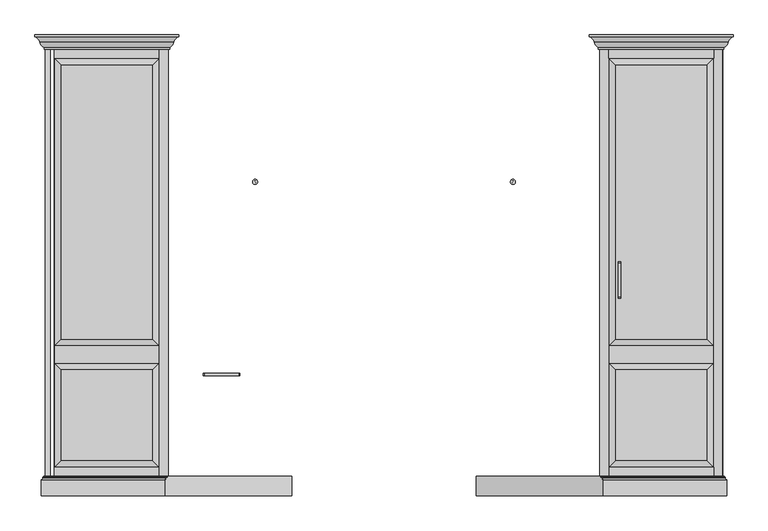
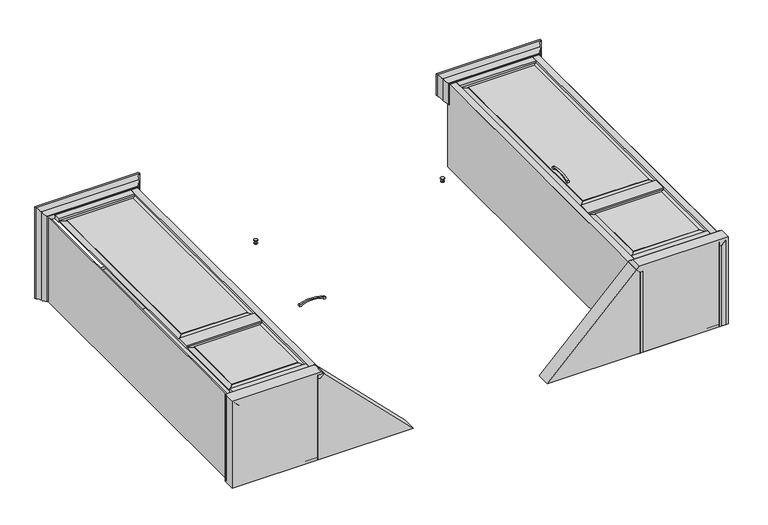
"""IFC4 building model written with IfcOpenShell, lengths in millimetres: proxy geometry, CCN^BRIGHTON_L2-A STRAIGHT WALL-SOLID ASSEMBLY."""

from ifc_helpers import new_model, si_unit, point, frame, frame_2d, origin, place, context, project, spatial, polyline, circle_curve, ellipse_curve, trimmed, segment, composite_curve, outline, extrude, faceted_brep, source, transform, mapped, element, save
from ifc_brep_helpers import plane_surface, cylinder_surface, revolved_surface, advanced_brep


def generic_models_cc090cf4(model_context):
    return source(origin(), model_context, "Body", "SolidModel", [
        advanced_brep(
        [(-2050.8129703, 555.4967341, 450.4803173), (-2001.9034737, 485.6467341, 401.5708208), (-2001.9034737, 485.6467341, -184.4636945), (-2050.8129703, 555.4967341, -184.4636945), (-2031.0315584, 485.6467341, -184.4636945), (-2031.0315584, 492.3867588, -184.4636945), (-2052.1823304, 521.5905487, -184.4636945), (-2076.2689584, 547.5719341, -184.4636945), (-2076.2689584, 555.4967341, -184.4636945), (-1439.4344431, 485.6467341, 249.1708208), (-1410.3063584, 485.6467341, 278.2989055), (-1410.3063584, 485.6467341, 430.6989055), (-2031.0315584, 485.6467341, 430.6989055), (-1439.4344431, 485.6467341, 401.5708208), (-1390.5249466, 555.4967341, 298.0803173), (-1365.0689584, 555.4967341, 323.5363055), (-1365.0689584, 547.5719341, 323.5363055), (-1389.1555865, 521.5905487, 299.4496774), (-1410.3063584, 492.3867588, 278.2989055), (-1390.5249466, 555.4967341, 450.4803173), (-1365.0689584, 547.5719341, 475.9363055), (-1389.1555865, 521.5905487, 451.8496774), (-1365.0689584, 555.4967341, 475.9363055), (-2076.2689584, 555.4967341, 475.9363055), (-1410.3063584, 492.3867588, 430.6989055), (-2076.2689584, 547.5719341, 475.9363055), (-2052.1823304, 521.5905487, 451.8496774), (-2031.0315584, 492.3867588, 430.6989055)],
        [
            (0, 1),
            (1, 2),
            (2, 3),
            (3, 0),
            (2, 4),
            (4, 5),
            (5, 6, circle_curve(frame((-2003.1423584, 534.8465341, -184.4636945), z_axis=(0.0, 0.0, -1.0), x_axis=(-1.0, 0.0, 0.0)), 50.8)),
            (6, 7, circle_curve(frame((-2088.9623093, 511.6485595, -184.4636945), z_axis=(0.0, 0.0, 1.0), x_axis=(-1.0, 0.0, 0.0)), 38.1)),
            (7, 8),
            (8, 3),
            (9, 10),
            (10, 11),
            (11, 12),
            (12, 4),
            (1, 13),
            (13, 9),
            (9, 14),
            (14, 15),
            (15, 16),
            (16, 17, ellipse_curve(frame((-1352.3756075, 511.6485595, 336.2296564), z_axis=(-0.7071067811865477, 0.0, 0.7071067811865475), x_axis=(-0.7071067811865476, 0.0, -0.7071067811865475)), 53.8815367, 38.1)),
            (17, 18, ellipse_curve(frame((-1438.1955584, 534.8465341, 250.4097055), z_axis=(0.7071067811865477, 0.0, -0.7071067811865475), x_axis=(-0.7071067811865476, 0.0, -0.7071067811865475)), 71.842049, 50.8)),
            (18, 10),
            (13, 19),
            (19, 14),
            (16, 20),
            (20, 21, ellipse_curve(frame((-1352.3756075, 511.6485595, 488.6296564), z_axis=(-0.7071067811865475, 0.0, 0.7071067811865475), x_axis=(-0.7071067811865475, 0.0, -0.7071067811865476)), 53.8815367, 38.1)),
            (21, 17),
            (15, 22),
            (22, 20),
            (19, 0),
            (8, 23),
            (23, 22),
            (21, 24, ellipse_curve(frame((-1438.1955584, 534.8465341, 402.8097055), z_axis=(0.7071067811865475, 0.0, -0.7071067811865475), x_axis=(-0.7071067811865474, 0.0, -0.7071067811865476)), 71.842049, 50.8)),
            (24, 18),
            (24, 11),
            (25, 23),
            (7, 25),
            (26, 25, ellipse_curve(frame((-2088.9623093, 511.6485595, 488.6296564), z_axis=(0.7071067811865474, 0.0, 0.7071067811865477), x_axis=(0.7071067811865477, 0.0, -0.7071067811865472)), 53.8815367, 38.1)),
            (6, 26),
            (27, 26, ellipse_curve(frame((-2003.1423584, 534.8465341, 402.8097055), z_axis=(-0.7071067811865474, 0.0, -0.7071067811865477), x_axis=(0.7071067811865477, 0.0, -0.7071067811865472)), 71.842049, 50.8)),
            (5, 27),
            (12, 27),
            (25, 20),
            (26, 21),
            (27, 24),
        ],
        [
            plane_surface(frame((-2050.8129703, 555.4967341, 450.4803173), z_axis=(0.8191520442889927, 0.573576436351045, 0.0), x_axis=(0.4975428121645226, -0.7105647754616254, -0.4975428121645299))),
            plane_surface(frame((-2025.4689584, 511.0467341, -184.4636945), z_axis=(0.0, 0.0, -1.0), x_axis=(-1.0, 0.0, 0.0))),
            plane_surface(frame((-1415.8689584, 485.6467341, 425.1363055), z_axis=(0.0, -1.0, 0.0), x_axis=(0.0, 0.0, 1.0))),
            plane_surface(frame((-1390.4689584, 555.4967341, 298.1363055), z_axis=(0.7071067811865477, 0.0, -0.7071067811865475), x_axis=(-0.7071067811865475, 0.0, -0.7071067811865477))),
            plane_surface(frame((-1415.8689584, 519.3017341, 425.1363055), z_axis=(-0.8191520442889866, 0.5735764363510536, 0.0), x_axis=(0.4975428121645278, 0.7105647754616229, 0.49754281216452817))),
            revolved_surface(polyline([(-1314.2756075, 511.6485595, 298.1296564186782), (-1314.2756075, 511.6485595, 526.7296563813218)]), (-1352.3756075, 511.6485595, 488.6296564), (0.0, 0.0, -1.0)),
            plane_surface(frame((-1365.0689584, 555.4967341, 475.9363055), z_axis=(1.0, 0.0, 0.0), x_axis=(0.0, -1.0, 0.0))),
            plane_surface(frame((-1415.8689584, 555.4967341, 475.9363055), z_axis=(0.0, 1.0, 0.0), x_axis=(0.0, 0.0, -1.0))),
            cylinder_surface(frame((-1438.1955584, 534.8465341, 402.8097055), z_axis=(0.0, 0.0, -1.0), x_axis=(1.0, 0.0, 0.0)), 50.8),
            plane_surface(frame((-1410.3063584, 492.3867588, 430.6989055), z_axis=(1.0, 0.0, 0.0), x_axis=(0.0, -1.0, 0.0))),
            plane_surface(frame((-2076.2689584, 547.5719341, 475.9363055), z_axis=(-1.0, 0.0, 0.0), x_axis=(0.0, 1.0, 0.0))),
            revolved_surface(polyline([(-2127.0623093, 511.6485595, -184.46369450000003), (-2127.0623093, 511.6485595, 526.7296563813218)]), (-2088.9623093, 511.6485595, 488.6296564), (0.0, 0.0, -1.0)),
            cylinder_surface(frame((-2003.1423584, 534.8465341, 402.8097055), z_axis=(0.0, 0.0, -1.0), x_axis=(-1.0, 0.0, 0.0)), 50.8),
            plane_surface(frame((-2031.0315584, 485.6467341, 430.6989055), z_axis=(-1.0, 0.0, 0.0), x_axis=(0.0, 1.0, 0.0))),
            plane_surface(frame((-1415.8689584, 547.5719341, 475.9363055), z_axis=(0.0, 0.0, 1.0), x_axis=(0.0, 1.0, 0.0))),
            revolved_surface(polyline([(-2127.062309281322, 501.7065703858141, 525.4096353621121), (-1314.275607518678, 501.7065703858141, 525.4096353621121)]), (-1415.8689584, 511.6485595, 488.6296564), (-1.0, 0.0, 0.0)),
            cylinder_surface(frame((-1415.8689584, 534.8465341, 402.8097055), z_axis=(-0.9999999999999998, 0.0, 0.0), x_axis=(0.0, -0.2609445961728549, 0.965353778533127)), 50.8),
            plane_surface(frame((-1415.8689584, 485.6467341, 430.6989055), z_axis=(0.0, 0.0, 1.0), x_axis=(0.0, 1.0, 0.0))),
            plane_surface(frame((-1415.8689584, 555.4967341, 450.4803173), z_axis=(0.0, 0.5735764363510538, -0.8191520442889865), x_axis=(0.0, -0.8191520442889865, -0.5735764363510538))),
        ],
        [
            (0, [[1, 2, 3, 4]]),
            (1, [[-3, 5, 6, 7, 8, 9, 10]]),
            (2, [[11, 12, 13, 14, -5, -2, 15, 16]]),
            (3, [[-11, 17, 18, 19, 20, 21, 22]]),
            (4, [[23, 24, -17, -16]]),
            (5, [[-20, 25, 26, 27]]),
            (6, [[-19, 28, 29, -25]]),
            (7, [[-18, -24, 30, -4, -10, 31, 32, -28]]),
            (8, [[-21, -27, 33, 34]]),
            (9, [[-22, -34, 35, -12]]),
            (10, [[36, -31, -9, 37]]),
            (11, [[38, -37, -8, 39]]),
            (12, [[40, -39, -7, 41]]),
            (13, [[42, -41, -6, -14]]),
            (14, [[-32, -36, 43, -29]]),
            (15, [[-43, -38, 44, -26]]),
            (16, [[-44, -40, 45, -33]]),
            (17, [[-45, -42, -13, -35]]),
            (18, [[-1, -30, -23, -15]]),
        ],
    ),
        extrude(outline(polyline([(399.7363055, -1441.2689584), (425.1363055, -1415.8689584), (425.1363055, -1460.3189584), (399.7363055, -1460.3189584), (399.7363055, -1441.2689584)])), frame((0.0, -1724.1532659, 0.0), z_axis=(0.0, 1.0, 0.0), x_axis=(0.0, 0.0, 1.0)), (0.0, 0.0, 1.0), 2235.2),
        faceted_brep([(-1463.4939584, -981.2032659, 413.4539186), (-1977.8439584, -981.2032659, 413.4539186), (-1977.8439584, -981.2032659, 425.1363055), (-1463.4939584, -981.2032659, 425.1363055), (-1977.8439584, -1070.1032659, 425.1363055), (-1463.4939584, -1070.1032659, 425.1363055), (-1977.8439584, -1070.1032659, 413.4539186), (-1463.4939584, -1070.1032659, 413.4539186), (-1495.2439584, -1101.8532659, 425.1363055), (-1495.2439584, -1101.8532659, 421.9613055), (-1946.0939584, -1101.8532659, 421.9613055), (-1946.0939584, -1101.8532659, 425.1363055), (-1946.0939584, -1549.5282659, 425.1363055), (-1495.2439584, -1549.5282659, 425.1363055), (-1946.0939584, -1549.5282659, 421.9613055), (-1977.8439584, -1581.2782659, 413.4539186), (-1495.2439584, -1549.5282659, 421.9613055), (-1463.4939584, -1581.2782659, 413.4539186), (-1977.8439584, -1581.2782659, 406.0863055), (-1463.4939584, -1581.2782659, 406.0863055), (-1946.0939584, -949.4532659, 421.9613055), (-1495.2439584, -949.4532659, 421.9613055), (-1946.0939584, -949.4532659, 425.1363055), (-1495.2439584, -949.4532659, 425.1363055), (-1946.0939584, 406.2717341, 421.9613055), (-1977.8439584, 438.0217341, 413.4539186), (-1946.0939584, 406.2717341, 425.1363055), (-1495.2439584, 406.2717341, 425.1363055), (-1463.4939584, 438.0217341, 413.4539186), (-1463.4939584, 438.0217341, 406.0863055), (-1977.8439584, 438.0217341, 406.0863055), (-1495.2439584, 406.2717341, 421.9613055)], [[[0, 1, 2, 3]], [[3, 2, 4, 5]], [[6, 7, 5, 4]], [[8, 9, 10, 11]], [[9, 7, 6, 10]], [[8, 11, 12, 13]], [[11, 10, 14, 12]], [[10, 6, 15, 14]], [[7, 9, 16, 17]], [[9, 8, 13, 16]], [[12, 14, 16, 13]], [[14, 15, 17, 16]], [[17, 15, 18, 19]], [[20, 1, 0, 21]], [[22, 20, 21, 23]], [[1, 20, 24, 25]], [[20, 22, 26, 24]], [[22, 23, 27, 26]], [[25, 28, 29, 30]], [[27, 31, 24, 26]], [[31, 28, 25, 24]], [[1, 25, 30, 18, 15, 6, 4, 2]], [[23, 21, 31, 27]], [[18, 30, 29, 19]], [[19, 29, 28, 0, 3, 5, 7, 17]], [[21, 0, 28, 31]]]),
        extrude(outline(polyline([(-1981.0189584, 441.1967341), (-1981.0189584, 511.0467341), (-1460.3189584, 511.0467341), (-1460.3189584, 441.1967341), (-1981.0189584, 441.1967341)])), frame((0.0, 0.0, 399.7363055), z_axis=(0.0, 0.0, 1.0), x_axis=(1.0, 0.0, 0.0)), (0.0, 0.0, 1.0), 25.4),
        advanced_brep(
        [(-1422.2189584, -1628.9032659, 431.4863055), (-806.2689584, -1628.9032659, -184.4636945), (-2031.8189584, -1628.9032659, -184.4636945), (-2031.8189584, -1628.9032659, 431.4863055), (-1422.2189584, -1632.0782659, 431.4863055), (-1428.5689584, -1638.4282659, 437.8363055), (-1434.9189584, -1644.7782659, 444.1863055), (-1434.9189584, -1724.1532659, 444.1863055), (-806.2689584, -1724.1532659, -184.4636945), (-2044.5189584, -1724.1532659, 444.1863055), (-2044.5189584, -1724.1532659, -184.4636945), (-2044.5189584, -1644.7782659, 444.1863055), (-2038.1689584, -1638.4282659, 437.8363055), (-2031.8189584, -1632.0782659, 431.4863055), (-2038.1689584, -1638.4282659, -184.4636945), (-2044.5189584, -1644.7782659, -184.4636945), (-2031.8189584, -1632.0782659, -184.4636945)],
        [
            (0, 1),
            (1, 2),
            (2, 3),
            (3, 0),
            (0, 4),
            (4, 5, ellipse_curve(frame((-1422.2189584, -1638.4282659, 431.4863055), z_axis=(0.7071067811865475, 0.0, 0.7071067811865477), x_axis=(-0.7071067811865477, 0.0, 0.7071067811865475)), 8.9802561, 6.35)),
            (5, 6, ellipse_curve(frame((-1434.9189584, -1638.4282659, 444.1863055), z_axis=(-0.7071067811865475, 0.0, -0.7071067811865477), x_axis=(-0.7071067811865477, 0.0, 0.7071067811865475)), 8.9802561, 6.35)),
            (6, 7),
            (7, 8),
            (8, 1),
            (7, 9),
            (9, 10),
            (10, 8),
            (6, 11),
            (11, 9),
            (5, 12),
            (12, 11, ellipse_curve(frame((-2044.5189584, -1638.4282659, 444.1863055), z_axis=(-0.707106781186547, 0.0, -0.7071067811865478), x_axis=(-0.7071067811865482, 0.0, 0.7071067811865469)), 8.9802561, 6.35)),
            (4, 13),
            (13, 12, ellipse_curve(frame((-2031.8189584, -1638.4282659, 431.4863055), z_axis=(0.707106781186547, 0.0, 0.7071067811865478), x_axis=(-0.7071067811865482, 0.0, 0.7071067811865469)), 8.9802561, 6.35)),
            (3, 13),
            (12, 14),
            (14, 15, circle_curve(frame((-2044.5189584, -1638.4282659, -184.4636945), z_axis=(0.0, 0.0, -1.0), x_axis=(-1.0, 0.0, 0.0)), 6.35)),
            (15, 11),
            (13, 16),
            (16, 14, circle_curve(frame((-2031.8189584, -1638.4282659, -184.4636945), z_axis=(0.0, 0.0, 1.0), x_axis=(-1.0, 0.0, 0.0)), 6.35)),
            (2, 16),
            (10, 15),
        ],
        [
            plane_surface(frame((-1730.1939584, -1628.9032659, 129.8613055), z_axis=(0.0, 1.0, 0.0), x_axis=(0.0, 0.0, 1.0))),
            plane_surface(frame((-1425.3939584, -1724.1532659, 434.6613055), z_axis=(0.7071067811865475, 0.0, 0.7071067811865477), x_axis=(0.7071067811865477, 0.0, -0.7071067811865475))),
            plane_surface(frame((-1730.1939584, -1724.1532659, 129.8613055), z_axis=(0.0, -1.0, 0.0), x_axis=(0.0, 0.0, -1.0))),
            plane_surface(frame((-2044.5189584, -1724.1532659, 444.1863055), z_axis=(0.0, 0.0, 1.0), x_axis=(1.0, 0.0, 0.0))),
            revolved_surface(polyline([(-2050.868958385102, -1644.7782659, 444.1863055), (-1428.5689584, -1644.7782659, 444.1863055)]), (-1415.8689584, -1638.4282659, 444.1863055), (-1.0, 0.0, 0.0)),
            cylinder_surface(frame((-1415.8689584, -1638.4282659, 431.4863055), z_axis=(-1.0, 0.0, 0.0), x_axis=(0.0, -1.0, 0.0)), 6.35),
            plane_surface(frame((-1415.8689584, -1628.9032659, 431.4863055), z_axis=(0.0, 0.0, 1.0), x_axis=(0.0, -1.0, 0.0))),
            revolved_surface(polyline([(-2050.8689584, -1638.4282659, -184.46369449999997), (-2050.8689584, -1638.4282659, 450.5363054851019)]), (-2044.5189584, -1638.4282659, 444.1863055), (0.0, 0.0, -1.0)),
            cylinder_surface(frame((-2031.8189584, -1638.4282659, 431.4863055), z_axis=(0.0, 0.0, -1.0), x_axis=(-1.0, 0.0, 0.0)), 6.35),
            plane_surface(frame((-2031.8189584, -1628.9032659, 431.4863055), z_axis=(-1.0, 0.0, 0.0), x_axis=(0.0, -1.0, 0.0))),
            plane_surface(frame((-2025.4689584, -1724.1532659, -184.4636945), z_axis=(0.0, 0.0, -1.0), x_axis=(-1.0, 0.0, 0.0))),
            plane_surface(frame((-2044.5189584, -1724.1532659, -184.4636945), z_axis=(-1.0, 0.0, 0.0), x_axis=(0.0, 0.0, 1.0))),
        ],
        [
            (0, [[1, 2, 3, 4]]),
            (1, [[-1, 5, 6, 7, 8, 9, 10]]),
            (2, [[-9, 11, 12, 13]]),
            (3, [[-8, 14, 15, -11]]),
            (4, [[-7, 16, 17, -14]]),
            (5, [[-6, 18, 19, -16]]),
            (6, [[-5, -4, 20, -18]]),
            (7, [[-17, 21, 22, 23]]),
            (8, [[-19, 24, 25, -21]]),
            (9, [[-20, -3, 26, -24]]),
            (10, [[-22, -25, -26, -2, -10, -13, 27]]),
            (11, [[-23, -27, -12, -15]]),
        ],
    ),
        extrude(outline(polyline([(-1460.3189584, -1724.1532659), (-1460.3189584, 485.6467341), (-1441.2689584, 485.6467341), (-1441.2689584, -1724.1532659), (-1460.3189584, -1724.1532659)])), frame((0.0, 0.0, -184.4636945), z_axis=(0.0, 0.0, 1.0), x_axis=(1.0, 0.0, 0.0)), (0.0, 0.0, 1.0), 584.2),
        extrude(outline(polyline([(-1461.1127084, 117.3467341), (-1980.2252084, 117.3467341), (-1980.2252084, 136.3967341), (-1461.1127084, 136.3967341), (-1461.1127084, 117.3467341)])), frame((0.0, 0.0, -165.4136945), z_axis=(0.0, 0.0, 1.0), x_axis=(1.0, 0.0, 0.0)), (0.0, 0.0, 1.0), 381.0),
        extrude(outline(polyline([(-1460.3189584, -1724.1532659), (-1981.0189584, -1724.1532659), (-1981.0189584, -1584.4532659), (-1460.3189584, -1584.4532659), (-1460.3189584, -1724.1532659)])), frame((0.0, 0.0, 399.7363055), z_axis=(0.0, 0.0, 1.0), x_axis=(1.0, 0.0, 0.0)), (0.0, 0.0, 1.0), 25.4),
        extrude(outline(polyline([(-184.4636945, -2000.0689584), (399.7363055, -2000.0689584), (425.1363055, -2025.4689584), (-184.4636945, -2025.4689584), (-184.4636945, -2000.0689584)])), frame((0.0, -1724.1532659, 0.0), z_axis=(0.0, 1.0, 0.0), x_axis=(0.0, 0.0, 1.0)), (0.0, 0.0, 1.0), 2235.2),
        extrude(outline(polyline([(-1460.3189584, 485.6467341), (-1460.3189584, -1724.1532659), (-1981.0189584, -1724.1532659), (-1981.0189584, 485.6467341), (-1460.3189584, 485.6467341)])), frame((0.0, 0.0, -184.4636945), z_axis=(0.0, 0.0, 1.0), x_axis=(1.0, 0.0, 0.0)), (0.0, 0.0, 1.0), 19.05),
        extrude(outline(composite_curve([segment(trimmed(circle_curve(frame_2d((-738.3532659, 432.1363055)), 9.0), [point((-729.3532659, 432.1363055))], [point((-732.6964116, 425.1363055))], False, "CARTESIAN"), True, "CONTINUOUS"), segment(polyline([(-732.6964116, 425.1363055), (-744.0101201, 425.1363055)]), True, "CONTINUOUS"), segment(trimmed(circle_curve(frame_2d((-738.3532659, 432.1363055)), 9.0), [point((-744.0101201, 425.1363055))], [point((-740.9626618, 440.7497283))], False, "CARTESIAN"), True, "CONTINUOUS"), segment(trimmed(circle_curve(frame_2d((-657.3532659, 164.7613055)), 288.375), [point((-740.9626618, 440.7497283))], [point((-573.7438699, 440.7497283))], False, "CARTESIAN"), True, "CONTINUOUS"), segment(trimmed(circle_curve(frame_2d((-576.3532659, 432.1363055)), 9.0), [point((-573.7438699, 440.7497283))], [point((-570.6964116, 425.1363055))], False, "CARTESIAN"), True, "CONTINUOUS"), segment(polyline([(-570.6964116, 425.1363055), (-582.0101201, 425.1363055)]), True, "CONTINUOUS"), segment(trimmed(circle_curve(frame_2d((-576.3532659, 432.1363055)), 9.0), [point((-582.0101201, 425.1363055))], [point((-585.3532659, 432.1363055))], False, "CARTESIAN"), True, "CONTINUOUS"), segment(trimmed(circle_curve(frame_2d((-657.3532659, 269.5668127)), 177.8), [point((-585.3532659, 432.1363055))], [point((-729.3532659, 432.1363055))], True, "CARTESIAN"), True, "CONTINUOUS")], self_intersect=False)), frame((810.1560416, 0.0, 0.0), z_axis=(1.0, 0.0, 0.0), x_axis=(0.0, 1.0, 0.0)), (0.0, 0.0, 1.0), 12.0),
        extrude(outline(polyline([(1282.8810416, 511.0467341), (1282.8810416, 441.1967341), (762.1810416, 441.1967341), (762.1810416, 511.0467341), (1282.8810416, 511.0467341)])), frame((0.0, 0.0, 399.7363055), z_axis=(0.0, 0.0, 1.0), x_axis=(1.0, 0.0, 0.0)), (0.0, 0.0, 1.0), 25.4),
        extrude(outline(polyline([(399.7363055, 1301.9310416), (-184.4636945, 1301.9310416), (-184.4636945, 1327.3310416), (425.1363055, 1327.3310416), (399.7363055, 1301.9310416)])), frame((0.0, -1724.1532659, 0.0), z_axis=(0.0, 1.0, 0.0), x_axis=(0.0, 0.0, 1.0)), (0.0, 0.0, 1.0), 2235.2),
        extrude(outline(polyline([(1301.9310416, 485.6467341), (743.1310416, 485.6467341), (743.1310416, 511.0467341), (1301.9310416, 511.0467341), (1301.9310416, 485.6467341)])), frame((0.0, 0.0, -184.4636945), z_axis=(0.0, 0.0, 1.0), x_axis=(1.0, 0.0, 0.0)), (0.0, 0.0, 1.0), 584.2),
        extrude(outline(polyline([(762.1810416, 485.6467341), (762.1810416, -1724.1532659), (743.1310416, -1724.1532659), (743.1310416, 485.6467341), (762.1810416, 485.6467341)])), frame((0.0, 0.0, -184.4636945), z_axis=(0.0, 0.0, 1.0), x_axis=(1.0, 0.0, 0.0)), (0.0, 0.0, 1.0), 584.2),
        extrude(outline(polyline([(1282.0872916, 117.3467341), (762.9747916, 117.3467341), (762.9747916, 136.3967341), (1282.0872916, 136.3967341), (1282.0872916, 117.3467341)])), frame((0.0, 0.0, -165.4136945), z_axis=(0.0, 0.0, 1.0), x_axis=(1.0, 0.0, 0.0)), (0.0, 0.0, 1.0), 381.0),
        advanced_brep(
        [(108.1310416, -1724.1532659, -184.4636945), (108.1310416, -1628.9032659, -184.4636945), (1333.6810416, -1628.9032659, -184.4636945), (1333.6810416, -1632.0782659, -184.4636945), (1340.0310416, -1638.4282659, -184.4636945), (1346.3810416, -1644.7782659, -184.4636945), (1346.3810416, -1724.1532659, -184.4636945), (736.7810416, -1644.7782659, 444.1863055), (730.4310416, -1638.4282659, 437.8363055), (724.0810416, -1632.0782659, 431.4863055), (724.0810416, -1628.9032659, 431.4863055), (736.7810416, -1724.1532659, 444.1863055), (1346.3810416, -1724.1532659, 444.1863055), (1346.3810416, -1644.7782659, 444.1863055), (1340.0310416, -1638.4282659, 437.8363055), (1333.6810416, -1632.0782659, 431.4863055), (1333.6810416, -1628.9032659, 431.4863055)],
        [
            (0, 1),
            (1, 2),
            (2, 3),
            (3, 4, circle_curve(frame((1333.6810416, -1638.4282659, -184.4636945), z_axis=(0.0, 0.0, -1.0), x_axis=(1.0, 0.0, 0.0)), 6.35)),
            (4, 5, circle_curve(frame((1346.3810416, -1638.4282659, -184.4636945), z_axis=(0.0, 0.0, 1.0), x_axis=(1.0, 0.0, 0.0)), 6.35)),
            (5, 6),
            (6, 0),
            (7, 8, ellipse_curve(frame((736.7810416, -1638.4282659, 444.1863055), z_axis=(0.7071067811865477, 0.0, -0.7071067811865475), x_axis=(-0.7071067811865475, 0.0, -0.7071067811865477)), 8.9802561, 6.35)),
            (8, 9, ellipse_curve(frame((724.0810416, -1638.4282659, 431.4863055), z_axis=(-0.7071067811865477, 0.0, 0.7071067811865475), x_axis=(-0.7071067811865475, 0.0, -0.7071067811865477)), 8.9802561, 6.35)),
            (9, 10),
            (10, 1),
            (0, 11),
            (11, 7),
            (6, 12),
            (12, 11),
            (12, 13),
            (13, 7),
            (13, 14, ellipse_curve(frame((1346.3810416, -1638.4282659, 444.1863055), z_axis=(0.7071067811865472, 0.0, -0.7071067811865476), x_axis=(-0.707106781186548, 0.0, -0.7071067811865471)), 8.9802561, 6.35)),
            (14, 8),
            (14, 15, ellipse_curve(frame((1333.6810416, -1638.4282659, 431.4863055), z_axis=(-0.7071067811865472, 0.0, 0.7071067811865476), x_axis=(-0.707106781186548, 0.0, -0.7071067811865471)), 8.9802561, 6.35)),
            (15, 9),
            (15, 16),
            (16, 10),
            (16, 2),
            (13, 5),
            (4, 14),
            (3, 15),
        ],
        [
            plane_surface(frame((1327.3310416, -1724.1532659, -184.4636945), z_axis=(0.0, 0.0, -1.0), x_axis=(1.0, 0.0, 0.0))),
            plane_surface(frame((727.2560416, -1724.1532659, 434.6613055), z_axis=(-0.7071067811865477, 0.0, 0.7071067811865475), x_axis=(-0.7071067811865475, 0.0, -0.7071067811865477))),
            plane_surface(frame((1032.0560416, -1724.1532659, 129.8613055), z_axis=(0.0, -1.0, 0.0), x_axis=(0.0, 0.0, -1.0))),
            plane_surface(frame((1346.3810416, -1724.1532659, 444.1863055), z_axis=(0.0, 0.0, 1.0), x_axis=(-1.0, 0.0, 0.0))),
            revolved_surface(polyline([(730.4310416, -1644.7782659, 444.1863055), (1352.7310415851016, -1644.7782659, 444.1863055)]), (717.7310416, -1638.4282659, 444.1863055), (-1.0, 0.0, 0.0)),
            cylinder_surface(frame((717.7310416, -1638.4282659, 431.4863055), z_axis=(-1.0, 0.0, 0.0), x_axis=(0.0, -1.0, 0.0)), 6.35),
            plane_surface(frame((717.7310416, -1628.9032659, 431.4863055), z_axis=(0.0, 0.0, 1.0), x_axis=(0.0, -1.0, 0.0))),
            plane_surface(frame((1032.0560416, -1628.9032659, 129.8613055), z_axis=(0.0, 1.0, 0.0), x_axis=(0.0, 0.0, 1.0))),
            revolved_surface(polyline([(1352.7310415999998, -1638.4282659, 450.5363054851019), (1352.7310415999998, -1638.4282659, -184.46369449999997)]), (1346.3810416, -1638.4282659, 444.1863055), (0.0, 0.0, 1.0)),
            cylinder_surface(frame((1333.6810416, -1638.4282659, 431.4863055), z_axis=(0.0, 0.0, 1.0), x_axis=(1.0, 0.0, 0.0)), 6.35),
            plane_surface(frame((1333.6810416, -1628.9032659, 431.4863055), z_axis=(1.0, 0.0, 0.0), x_axis=(0.0, -1.0, 0.0))),
            plane_surface(frame((1346.3810416, -1724.1532659, -184.4636945), z_axis=(1.0, 0.0, 0.0), x_axis=(0.0, 0.0, 1.0))),
        ],
        [
            (0, [[1, 2, 3, 4, 5, 6, 7]]),
            (1, [[8, 9, 10, 11, -1, 12, 13]]),
            (2, [[-12, -7, 14, 15]]),
            (3, [[-13, -15, 16, 17]]),
            (4, [[-8, -17, 18, 19]]),
            (5, [[-9, -19, 20, 21]]),
            (6, [[-10, -21, 22, 23]]),
            (7, [[-11, -23, 24, -2]]),
            (8, [[-18, 25, -5, 26]]),
            (9, [[-20, -26, -4, 27]]),
            (10, [[-22, -27, -3, -24]]),
            (11, [[-25, -16, -14, -6]]),
        ],
    ),
        extrude(outline(polyline([(425.1363055, 717.7310416), (399.7363055, 743.1310416), (399.7363055, 762.1810416), (425.1363055, 762.1810416), (425.1363055, 717.7310416)])), frame((0.0, -1724.1532659, 0.0), z_axis=(0.0, 1.0, 0.0), x_axis=(0.0, 0.0, 1.0)), (0.0, 0.0, 1.0), 2235.2),
        extrude(outline(polyline([(425.1363055, 717.7310416), (-184.4636945, 717.7310416), (-184.4636945, 743.1310416), (399.7363055, 743.1310416), (425.1363055, 717.7310416)])), frame((0.0, -1724.1532659, 0.0), z_axis=(0.0, 1.0, 0.0), x_axis=(0.0, 0.0, 1.0)), (0.0, 0.0, 1.0), 2235.2),
        extrude(outline(polyline([(1282.8810416, -1724.1532659), (762.1810416, -1724.1532659), (762.1810416, -1584.4532659), (1282.8810416, -1584.4532659), (1282.8810416, -1724.1532659)])), frame((0.0, 0.0, 399.7363055), z_axis=(0.0, 0.0, 1.0), x_axis=(1.0, 0.0, 0.0)), (0.0, 0.0, 1.0), 25.4),
        extrude(outline(polyline([(399.7363055, 1301.9310416), (425.1363055, 1327.3310416), (425.1363055, 1282.8810416), (399.7363055, 1282.8810416), (399.7363055, 1301.9310416)])), frame((0.0, -1724.1532659, 0.0), z_axis=(0.0, 1.0, 0.0), x_axis=(0.0, 0.0, 1.0)), (0.0, 0.0, 1.0), 2235.2),
        extrude(outline(polyline([(762.1810416, -1724.1532659), (762.1810416, 485.6467341), (1282.8810416, 485.6467341), (1282.8810416, -1724.1532659), (762.1810416, -1724.1532659)])), frame((0.0, 0.0, -184.4636945), z_axis=(0.0, 0.0, 1.0), x_axis=(1.0, 0.0, 0.0)), (0.0, 0.0, 1.0), 19.05),
        faceted_brep([(1279.7060416, -981.2032659, 413.4539186), (765.3560416, -981.2032659, 413.4539186), (765.3560416, -981.2032659, 425.1363055), (1279.7060416, -981.2032659, 425.1363055), (765.3560416, -1070.1032659, 425.1363055), (1279.7060416, -1070.1032659, 425.1363055), (765.3560416, -1070.1032659, 413.4539186), (1279.7060416, -1070.1032659, 413.4539186), (797.1060416, -1101.8532659, 421.9613055), (1247.9560416, -1101.8532659, 421.9613055), (1247.9560416, -1101.8532659, 425.1363055), (797.1060416, -1101.8532659, 425.1363055), (765.3560416, -1581.2782659, 413.4539186), (797.1060416, -1549.5282659, 421.9613055), (1247.9560416, -1549.5282659, 421.9613055), (1279.7060416, -1581.2782659, 413.4539186), (797.1060416, -1549.5282659, 425.1363055), (1247.9560416, -1549.5282659, 425.1363055), (765.3560416, -1581.2782659, 406.0863055), (1279.7060416, -1581.2782659, 406.0863055), (1247.9560416, -949.4532659, 421.9613055), (797.1060416, -949.4532659, 421.9613055), (1247.9560416, -949.4532659, 425.1363055), (797.1060416, -949.4532659, 425.1363055), (1279.7060416, 438.0217341, 413.4539186), (1247.9560416, 406.2717341, 421.9613055), (1247.9560416, 406.2717341, 425.1363055), (797.1060416, 406.2717341, 425.1363055), (765.3560416, 438.0217341, 413.4539186), (1279.7060416, 438.0217341, 406.0863055), (765.3560416, 438.0217341, 406.0863055), (797.1060416, 406.2717341, 421.9613055)], [[[0, 1, 2, 3]], [[3, 2, 4, 5]], [[6, 7, 5, 4]], [[6, 8, 9, 7]], [[10, 9, 8, 11]], [[8, 6, 12, 13]], [[7, 9, 14, 15]], [[11, 8, 13, 16]], [[10, 11, 16, 17]], [[14, 17, 16, 13]], [[15, 14, 13, 12]], [[9, 10, 17, 14]], [[15, 12, 18, 19]], [[0, 20, 21, 1]], [[20, 22, 23, 21]], [[20, 0, 24, 25]], [[22, 20, 25, 26]], [[23, 22, 26, 27]], [[28, 24, 29, 30]], [[31, 27, 26, 25]], [[28, 31, 25, 24]], [[24, 0, 3, 5, 7, 15, 19, 29]], [[21, 23, 27, 31]], [[29, 19, 18, 30]], [[30, 18, 12, 6, 4, 2, 1, 28]], [[1, 21, 31, 28]]]),
        extrude(outline(polyline([(1282.8810416, -1724.1532659), (1282.8810416, 485.6467341), (1301.9310416, 485.6467341), (1301.9310416, -1724.1532659), (1282.8810416, -1724.1532659)])), frame((0.0, 0.0, -184.4636945), z_axis=(0.0, 0.0, 1.0), x_axis=(1.0, 0.0, 0.0)), (0.0, 0.0, 1.0), 584.2),
        advanced_brep(
        [(1303.7655569, 485.6467341, 401.5708208), (1352.6750534, 555.4967341, 450.4803173), (1352.6750534, 555.4967341, -184.4636945), (1303.7655569, 485.6467341, -184.4636945), (692.3870297, 555.4967341, 450.4803173), (741.2965263, 485.6467341, 401.5708208), (741.2965263, 485.6467341, 249.1708208), (692.3870297, 555.4967341, 298.0803173), (1332.8936416, 485.6467341, -184.4636945), (1332.8936416, 485.6467341, 430.6989055), (712.1684416, 485.6467341, 430.6989055), (712.1684416, 485.6467341, 278.2989055), (712.1684416, 492.3867588, 278.2989055), (691.0176696, 521.5905487, 299.4496774), (666.9310416, 547.5719341, 323.5363055), (666.9310416, 555.4967341, 323.5363055), (691.0176696, 521.5905487, 451.8496774), (666.9310416, 547.5719341, 475.9363055), (666.9310416, 555.4967341, 475.9363055), (1378.1310416, 555.4967341, 475.9363055), (1378.1310416, 555.4967341, -184.4636945), (712.1684416, 492.3867588, 430.6989055), (1378.1310416, 547.5719341, 475.9363055), (1378.1310416, 547.5719341, -184.4636945), (1354.0444135, 521.5905487, 451.8496774), (1354.0444135, 521.5905487, -184.4636945), (1332.8936416, 492.3867588, 430.6989055), (1332.8936416, 492.3867588, -184.4636945)],
        [
            (0, 1),
            (1, 2),
            (2, 3),
            (3, 0),
            (4, 5),
            (5, 6),
            (6, 7),
            (7, 4),
            (3, 8),
            (8, 9),
            (9, 10),
            (10, 11),
            (11, 6),
            (5, 0),
            (11, 12),
            (12, 13, ellipse_curve(frame((740.0576416, 534.8465341, 250.4097055), z_axis=(-0.7071067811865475, 0.0, -0.7071067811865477), x_axis=(-0.7071067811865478, 0.0, 0.7071067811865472)), 71.842049, 50.8)),
            (13, 14, ellipse_curve(frame((654.2376907, 511.6485595, 336.2296564), z_axis=(0.7071067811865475, 0.0, 0.7071067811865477), x_axis=(-0.7071067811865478, 0.0, 0.7071067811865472)), 53.8815367, 38.1)),
            (14, 15),
            (15, 7),
            (13, 16),
            (16, 17, ellipse_curve(frame((654.2376907, 511.6485595, 488.6296564), z_axis=(0.7071067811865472, 0.0, 0.7071067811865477), x_axis=(-0.7071067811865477, 0.0, 0.7071067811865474)), 53.8815367, 38.1)),
            (17, 14),
            (17, 18),
            (18, 15),
            (18, 19),
            (19, 20),
            (20, 2),
            (1, 4),
            (12, 21),
            (21, 16, ellipse_curve(frame((740.0576416, 534.8465341, 402.8097055), z_axis=(-0.7071067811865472, 0.0, -0.7071067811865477), x_axis=(-0.7071067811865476, 0.0, 0.7071067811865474)), 71.842049, 50.8)),
            (10, 21),
            (19, 22),
            (22, 23),
            (23, 20),
            (22, 24, ellipse_curve(frame((1390.8243925, 511.6485595, 488.6296564), z_axis=(-0.7071067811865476, 0.0, 0.7071067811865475), x_axis=(0.7071067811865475, 0.0, 0.7071067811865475)), 53.8815367, 38.1)),
            (24, 25),
            (25, 23, circle_curve(frame((1390.8243925, 511.6485595, -184.4636945), z_axis=(0.0, 0.0, -1.0), x_axis=(1.0, 0.0, 0.0)), 38.1)),
            (24, 26, ellipse_curve(frame((1305.0044416, 534.8465341, 402.8097055), z_axis=(0.7071067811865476, 0.0, -0.7071067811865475), x_axis=(0.7071067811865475, 0.0, 0.7071067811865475)), 71.842049, 50.8)),
            (26, 27),
            (27, 25, circle_curve(frame((1305.0044416, 534.8465341, -184.4636945), z_axis=(0.0, 0.0, 1.0), x_axis=(1.0, 0.0, 0.0)), 50.8)),
            (26, 9),
            (8, 27),
            (17, 22),
            (16, 24),
            (21, 26),
        ],
        [
            plane_surface(frame((1352.6750534, 555.4967341, 450.4803173), z_axis=(-0.8191520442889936, 0.573576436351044, 0.0), x_axis=(-0.49754281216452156, -0.710564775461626, -0.49754281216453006))),
            plane_surface(frame((717.7310416, 519.3017341, 425.1363055), z_axis=(0.8191520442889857, 0.5735764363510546, 0.0), x_axis=(-0.49754281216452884, 0.7105647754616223, 0.497542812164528))),
            plane_surface(frame((717.7310416, 485.6467341, 425.1363055), z_axis=(0.0, -1.0, 0.0), x_axis=(0.0, 0.0, 1.0))),
            plane_surface(frame((692.3310416, 555.4967341, 298.1363055), z_axis=(-0.7071067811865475, 0.0, -0.7071067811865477), x_axis=(0.7071067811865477, 0.0, -0.7071067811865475))),
            revolved_surface(polyline([(616.1376907, 511.6485595, 526.7296563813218), (616.1376907, 511.6485595, 298.1296564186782)]), (654.2376907, 511.6485595, 488.6296564), (0.0, 0.0, 1.0)),
            plane_surface(frame((666.9310416, 555.4967341, 475.9363055), z_axis=(-1.0, 0.0, 0.0), x_axis=(0.0, -1.0, 0.0))),
            plane_surface(frame((717.7310416, 555.4967341, 475.9363055), z_axis=(0.0, 1.0, 0.0), x_axis=(0.0, 0.0, -1.0))),
            cylinder_surface(frame((740.0576416, 534.8465341, 402.8097055), z_axis=(0.0, 0.0, 1.0), x_axis=(-1.0, 0.0, 0.0)), 50.8),
            plane_surface(frame((712.1684416, 492.3867588, 430.6989055), z_axis=(-1.0, 0.0, 0.0), x_axis=(0.0, -1.0, 0.0))),
            plane_surface(frame((1378.1310416, 547.5719341, 475.9363055), z_axis=(1.0, 0.0, 0.0), x_axis=(0.0, 1.0, 0.0))),
            revolved_surface(polyline([(1428.9243924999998, 511.6485595, 526.7296563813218), (1428.9243924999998, 511.6485595, -184.46369450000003)]), (1390.8243925, 511.6485595, 488.6296564), (0.0, 0.0, 1.0)),
            cylinder_surface(frame((1305.0044416, 534.8465341, 402.8097055), z_axis=(0.0, 0.0, 1.0), x_axis=(1.0, 0.0, 0.0)), 50.8),
            plane_surface(frame((1332.8936416, 485.6467341, 430.6989055), z_axis=(1.0, 0.0, 0.0), x_axis=(0.0, 1.0, 0.0))),
            plane_surface(frame((717.7310416, 547.5719341, 475.9363055), z_axis=(0.0, 0.0, 1.0), x_axis=(0.0, 1.0, 0.0))),
            revolved_surface(polyline([(616.1376907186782, 501.7065703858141, 525.4096353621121), (1428.9243924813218, 501.7065703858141, 525.4096353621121)]), (717.7310416, 511.6485595, 488.6296564), (-1.0, 0.0, 0.0)),
            cylinder_surface(frame((717.7310416, 534.8465341, 402.8097055), z_axis=(-0.9999999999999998, 0.0, 0.0), x_axis=(0.0, -0.2609445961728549, 0.965353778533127)), 50.8),
            plane_surface(frame((717.7310416, 485.6467341, 430.6989055), z_axis=(0.0, 0.0, 1.0), x_axis=(0.0, 1.0, 0.0))),
            plane_surface(frame((717.7310416, 555.4967341, 450.4803173), z_axis=(0.0, 0.5735764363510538, -0.8191520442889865), x_axis=(0.0, -0.8191520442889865, -0.5735764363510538))),
            plane_surface(frame((1327.3310416, 511.0467341, -184.4636945), z_axis=(0.0, 0.0, -1.0), x_axis=(1.0, 0.0, 0.0))),
        ],
        [
            (0, [[1, 2, 3, 4]]),
            (1, [[5, 6, 7, 8]]),
            (2, [[-4, 9, 10, 11, 12, 13, -6, 14]]),
            (3, [[-13, 15, 16, 17, 18, 19, -7]]),
            (4, [[-17, 20, 21, 22]]),
            (5, [[-18, -22, 23, 24]]),
            (6, [[-19, -24, 25, 26, 27, -2, 28, -8]]),
            (7, [[-16, 29, 30, -20]]),
            (8, [[-15, -12, 31, -29]]),
            (9, [[32, 33, 34, -26]]),
            (10, [[35, 36, 37, -33]]),
            (11, [[38, 39, 40, -36]]),
            (12, [[41, -10, 42, -39]]),
            (13, [[-25, -23, 43, -32]]),
            (14, [[-43, -21, 44, -35]]),
            (15, [[-44, -30, 45, -38]]),
            (16, [[-45, -31, -11, -41]]),
            (17, [[-5, -28, -1, -14]]),
            (18, [[-27, -34, -37, -40, -42, -9, -3]]),
        ],
    ),
        extrude(outline(composite_curve([segment(polyline([(482.2863055, -1239.0008127), (482.2863055, -1227.6871042)]), True, "CONTINUOUS"), segment(trimmed(circle_curve(frame_2d((489.2863055, -1233.3439584)), 9.0), [point((482.2863055, -1227.6871042))], [point((489.2863055, -1224.3439584))], False, "CARTESIAN"), True, "CONTINUOUS"), segment(trimmed(circle_curve(frame_2d((326.7168127, -1152.3439584)), 177.8), [point((489.2863055, -1224.3439584))], [point((489.2863055, -1080.3439584))], True, "CARTESIAN"), True, "CONTINUOUS"), segment(trimmed(circle_curve(frame_2d((489.2863055, -1071.3439584)), 9.0), [point((489.2863055, -1080.3439584))], [point((482.2863055, -1077.0008127))], False, "CARTESIAN"), True, "CONTINUOUS"), segment(polyline([(482.2863055, -1077.0008127), (482.2863055, -1065.6871042)]), True, "CONTINUOUS"), segment(trimmed(circle_curve(frame_2d((489.2863055, -1071.3439584)), 9.0), [point((482.2863055, -1065.6871042))], [point((497.8997283, -1068.7345624))], False, "CARTESIAN"), True, "CONTINUOUS"), segment(trimmed(circle_curve(frame_2d((221.9113055, -1152.3439584)), 288.375), [point((497.8997283, -1068.7345624))], [point((497.8997283, -1235.9533544))], False, "CARTESIAN"), True, "CONTINUOUS"), segment(trimmed(circle_curve(frame_2d((489.2863055, -1233.3439584)), 9.0), [point((497.8997283, -1235.9533544))], [point((482.2863055, -1239.0008127))], False, "CARTESIAN"), True, "CONTINUOUS")], self_intersect=False)), frame((0.0, -1130.0782659, 0.0), z_axis=(0.0, 1.0, 0.0), x_axis=(0.0, 0.0, 1.0)), (0.0, 0.0, 1.0), 12.0),
        advanced_brep(
        [(289.0742916, -184.0782659, 293.7363055), (289.0742916, -184.0782659, 297.7363055), (289.0742916, -159.0782659, 297.7363055), (289.0742916, -159.0782659, 293.7363055), (289.0742916, -178.0782659, 284.6648161), (289.0742916, -182.0782659, 276.7363055), (289.0742916, -161.0782659, 276.7363055), (289.0742916, -165.0782659, 284.6648161), (289.0742916, -182.0782659, 272.7363055), (289.0742916, -161.0782659, 272.7363055)],
        [
            (0, 1),
            (1, 2, circle_curve(frame((289.0742916, -171.5782659, 297.7363055), z_axis=(0.0, 0.0, -1.0), x_axis=(0.0, -1.0, 0.0)), 12.5)),
            (2, 3),
            (3, 0, circle_curve(frame((289.0742916, -171.5782659, 293.7363055), z_axis=(0.0, 0.0, 1.0), x_axis=(0.0, -1.0, 0.0)), 12.5)),
            (0, 4, circle_curve(frame((289.0742916, -187.9359259, 284.6648161), z_axis=(-1.0, 0.0, 0.0), x_axis=(0.0, -1.0, 0.0)), 9.85766)),
            (4, 5, circle_curve(frame((289.0742916, -187.9359259, 284.6648161), z_axis=(-1.0, 0.0, 0.0), x_axis=(0.0, -1.0, 0.0)), 9.85766)),
            (5, 6, circle_curve(frame((289.0742916, -171.5782659, 276.7363055), z_axis=(0.0, 0.0, 1.0), x_axis=(0.0, -1.0, 0.0)), 10.5)),
            (6, 7, circle_curve(frame((289.0742916, -155.2206058, 284.6648161), z_axis=(-1.0, 0.0, 0.0), x_axis=(0.0, 1.0, 0.0)), 9.85766)),
            (7, 3, circle_curve(frame((289.0742916, -155.2206058, 284.6648161), z_axis=(-1.0, 0.0, 0.0), x_axis=(0.0, 1.0, 0.0)), 9.85766)),
            (3, 0, circle_curve(frame((289.0742916, -171.5782659, 293.7363055), z_axis=(0.0, 0.0, -1.0), x_axis=(0.0, -1.0, 0.0)), 12.5)),
            (8, 5),
            (5, 6, circle_curve(frame((289.0742916, -171.5782659, 276.7363055), z_axis=(0.0, 0.0, -1.0), x_axis=(0.0, -1.0, 0.0)), 10.5)),
            (6, 9),
            (9, 8, circle_curve(frame((289.0742916, -171.5782659, 272.7363055), z_axis=(0.0, 0.0, 1.0), x_axis=(0.0, -1.0, 0.0)), 10.5)),
            (9, 8, circle_curve(frame((289.0742916, -171.5782659, 272.7363055), z_axis=(0.0, 0.0, -1.0), x_axis=(0.0, -1.0, 0.0)), 10.5)),
            (2, 1, circle_curve(frame((289.0742916, -171.5782659, 297.7363055), z_axis=(0.0, 0.0, -1.0), x_axis=(0.0, -1.0, 0.0)), 12.5)),
        ],
        [
            cylinder_surface(frame((289.0742916, -171.5782659, 295.7363055), z_axis=(0.0, 0.0, 1.0), x_axis=(0.0, -1.0, 0.0)), 12.5),
            revolved_surface(trimmed(ellipse_curve(frame((289.0742916, -187.9359259, 284.6648161), z_axis=(1.0, 0.0, 0.0), x_axis=(0.0, -1.0, 0.0)), 9.85766, 9.85766), [point((289.0742916, -182.0782659, 276.7363055))], [point((289.0742916, -184.0782659, 293.7363055))], True, "CARTESIAN"), (289.0742916, -171.5782659, 284.6648161), (0.0, 0.0, 1.0)),
            cylinder_surface(frame((289.0742916, -171.5782659, 274.7363055), z_axis=(0.0, 0.0, 1.0), x_axis=(0.0, -1.0, 0.0)), 10.5),
            plane_surface(frame((289.0742916, -182.0782659, 272.7363055), z_axis=(0.0, 0.0, -1.0), x_axis=(0.0, 1.0, 0.0))),
            revolved_surface(trimmed(ellipse_curve(frame((289.0742916, -155.2206058, 284.6648161), z_axis=(-1.0, 0.0, 0.0), x_axis=(0.0, 1.0, 0.0)), 9.85766, 9.85766), [point((289.0742916, -161.0782659, 276.7363055))], [point((289.0742916, -159.0782659, 293.7363055))], True, "CARTESIAN"), (289.0742916, -171.5782659, 284.6648161), (0.0, 0.0, 1.0)),
            plane_surface(frame((289.0742916, -171.5782659, 297.7363055), z_axis=(0.0, 0.0, 1.0), x_axis=(0.0, -1.0, 0.0))),
        ],
        [
            (0, [[1, 2, 3, 4]]),
            (1, [[5, 6, 7, 8, 9, 10]]),
            (2, [[11, 12, 13, 14]]),
            (3, [[15, -14]]),
            (2, [[-11, -15, -13, -7]]),
            (4, [[-5, -4, -9, -8, -12, -6]]),
            (0, [[-1, -10, -3, 16]]),
            (5, [[-16, -2]]),
        ],
    ),
        advanced_brep(
        [(-987.2122084, -184.0782659, 293.7363055), (-987.2122084, -184.0782659, 297.7363055), (-987.2122084, -159.0782659, 297.7363055), (-987.2122084, -159.0782659, 293.7363055), (-987.2122084, -178.0782659, 284.6648161), (-987.2122084, -182.0782659, 276.7363055), (-987.2122084, -161.0782659, 276.7363055), (-987.2122084, -165.0782659, 284.6648161), (-987.2122084, -182.0782659, 272.7363055), (-987.2122084, -161.0782659, 272.7363055)],
        [
            (0, 1),
            (1, 2, circle_curve(frame((-987.2122084, -171.5782659, 297.7363055), z_axis=(0.0, 0.0, -1.0), x_axis=(0.0, -1.0, 0.0)), 12.5)),
            (2, 3),
            (3, 0, circle_curve(frame((-987.2122084, -171.5782659, 293.7363055), z_axis=(0.0, 0.0, 1.0), x_axis=(0.0, -1.0, 0.0)), 12.5)),
            (0, 4, circle_curve(frame((-987.2122084, -187.9359259, 284.6648161), z_axis=(-1.0, 0.0, 0.0), x_axis=(0.0, -1.0, 0.0)), 9.85766)),
            (4, 5, circle_curve(frame((-987.2122084, -187.9359259, 284.6648161), z_axis=(-1.0, 0.0, 0.0), x_axis=(0.0, -1.0, 0.0)), 9.85766)),
            (5, 6, circle_curve(frame((-987.2122084, -171.5782659, 276.7363055), z_axis=(0.0, 0.0, 1.0), x_axis=(0.0, -1.0, 0.0)), 10.5)),
            (6, 7, circle_curve(frame((-987.2122084, -155.2206058, 284.6648161), z_axis=(-1.0, 0.0, 0.0), x_axis=(0.0, 1.0, 0.0)), 9.85766)),
            (7, 3, circle_curve(frame((-987.2122084, -155.2206058, 284.6648161), z_axis=(-1.0, 0.0, 0.0), x_axis=(0.0, 1.0, 0.0)), 9.85766)),
            (3, 0, circle_curve(frame((-987.2122084, -171.5782659, 293.7363055), z_axis=(0.0, 0.0, -1.0), x_axis=(0.0, -1.0, 0.0)), 12.5)),
            (8, 5),
            (5, 6, circle_curve(frame((-987.2122084, -171.5782659, 276.7363055), z_axis=(0.0, 0.0, -1.0), x_axis=(0.0, -1.0, 0.0)), 10.5)),
            (6, 9),
            (9, 8, circle_curve(frame((-987.2122084, -171.5782659, 272.7363055), z_axis=(0.0, 0.0, 1.0), x_axis=(0.0, -1.0, 0.0)), 10.5)),
            (9, 8, circle_curve(frame((-987.2122084, -171.5782659, 272.7363055), z_axis=(0.0, 0.0, -1.0), x_axis=(0.0, -1.0, 0.0)), 10.5)),
            (2, 1, circle_curve(frame((-987.2122084, -171.5782659, 297.7363055), z_axis=(0.0, 0.0, -1.0), x_axis=(0.0, -1.0, 0.0)), 12.5)),
        ],
        [
            cylinder_surface(frame((-987.2122084, -171.5782659, 295.7363055), z_axis=(0.0, 0.0, 1.0), x_axis=(0.0, -1.0, 0.0)), 12.5),
            revolved_surface(trimmed(ellipse_curve(frame((-987.2122084, -187.9359259, 284.6648161), z_axis=(1.0, 0.0, 0.0), x_axis=(0.0, -1.0, 0.0)), 9.85766, 9.85766), [point((-987.2122084, -182.0782659, 276.7363055))], [point((-987.2122084, -184.0782659, 293.7363055))], True, "CARTESIAN"), (-987.2122084, -171.5782659, 284.6648161), (0.0, 0.0, 1.0)),
            cylinder_surface(frame((-987.2122084, -171.5782659, 274.7363055), z_axis=(0.0, 0.0, 1.0), x_axis=(0.0, -1.0, 0.0)), 10.5),
            plane_surface(frame((-987.2122084, -182.0782659, 272.7363055), z_axis=(0.0, 0.0, -1.0), x_axis=(0.0, 1.0, 0.0))),
            revolved_surface(trimmed(ellipse_curve(frame((-987.2122084, -155.2206058, 284.6648161), z_axis=(-1.0, 0.0, 0.0), x_axis=(0.0, 1.0, 0.0)), 9.85766, 9.85766), [point((-987.2122084, -161.0782659, 276.7363055))], [point((-987.2122084, -159.0782659, 293.7363055))], True, "CARTESIAN"), (-987.2122084, -171.5782659, 284.6648161), (0.0, 0.0, 1.0)),
            plane_surface(frame((-987.2122084, -171.5782659, 297.7363055), z_axis=(0.0, 0.0, 1.0), x_axis=(0.0, -1.0, 0.0))),
        ],
        [
            (0, [[1, 2, 3, 4]]),
            (1, [[5, 6, 7, 8, 9, 10]]),
            (2, [[11, 12, 13, 14]]),
            (3, [[15, -14]]),
            (2, [[-11, -15, -13, -7]]),
            (4, [[-5, -4, -9, -8, -12, -6]]),
            (0, [[-1, -10, -3, 16]]),
            (5, [[-16, -2]]),
        ],
    ),
    ])


if __name__ == "__main__":
    model = new_model("IFC4")
    model_context = context("Model", 3, world=origin())
    ifc_project = project(units=[si_unit("LENGTHUNIT", "METRE", prefix="MILLI")], contexts=[model_context])
    site = spatial("IfcSite", under=ifc_project)
    building = spatial("IfcBuilding", under=site)
    placement = place(None, origin())
    generic_models_shape = generic_models_cc090cf4(model_context)
    element("IfcBuildingElementProxy", 1, Name="CCN^BRIGHTON_L2-A STRAIGHT WALL-SOLID ASSEMBLY", ObjectType="CCN^BRIGHTON_L2-A STRAIGHT WALL-SOLID ASSEMBLY", at=placement, inside=building, context=model_context, shape_type="MappedRepresentation", body=[
        mapped(generic_models_shape, transform((0.0, 0.0, 0.0), x_axis=(1.0, 0.0, 0.0), y_axis=(0.0, 1.0, 0.0), z_axis=(0.0, 0.0, 1.0))),
    ])
    save(model, "model.ifc")
